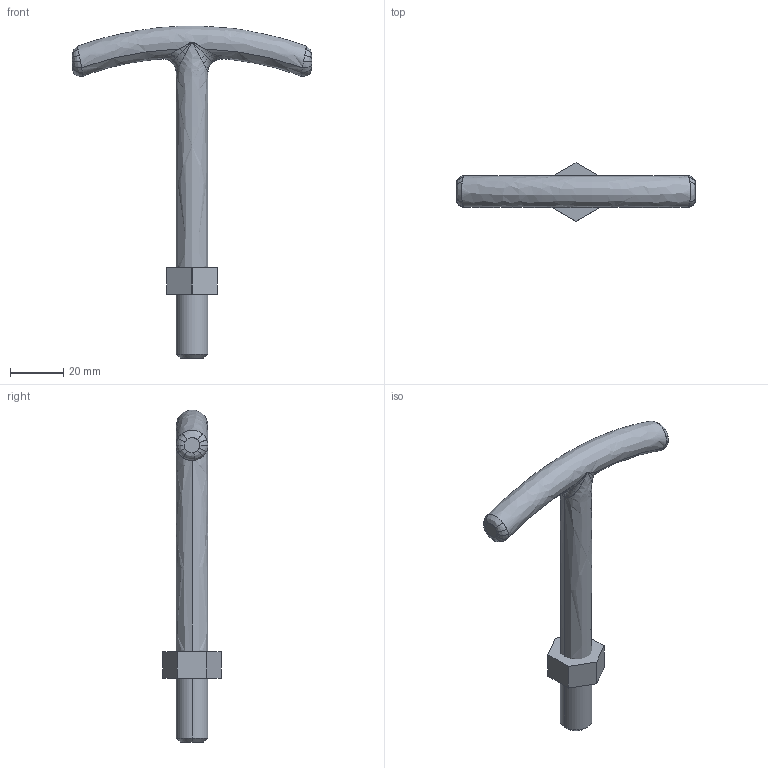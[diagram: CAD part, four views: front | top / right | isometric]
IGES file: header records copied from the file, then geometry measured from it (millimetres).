
Global section: file name: E:\UnigraphicsGraphicData\MISUMI_PRESS-PARTS\IGES\3d_tb12-125_05660_r00.igs; native system: NX V5.0; preprocessor: UGS NX IGES V5.0; author: MISUMI; date: 20110105.163350; units: millimetre
Bounding box: 90 x 21.94 x 124.92 mm (x, y, z)
Surface area: 9074.2 mm2 (no closed solid volume)
Topology: 0 solids, 0 shells, 75 faces, 461 edges, 454 vertices
Faces by surface type: bspline 75
